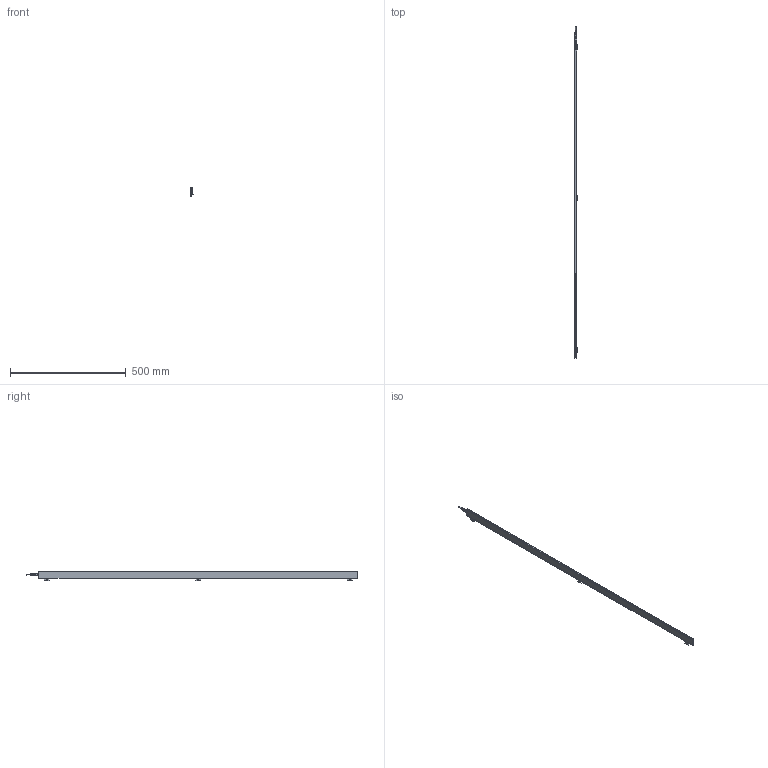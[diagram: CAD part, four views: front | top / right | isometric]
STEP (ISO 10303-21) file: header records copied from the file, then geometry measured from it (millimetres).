
FILE_DESCRIPTION (( 'STEP AP214' ), '1' );
FILE_NAME ('ILG-N-K2-1380mm.STEP', '2017-07-10T14:06:02', ( '' ), ( '' ), 'SwSTEP 2.0', 'SolidWorks 2016', '' );
FILE_SCHEMA (( 'AUTOMOTIVE_DESIGN' ));
Length unit declared in the file: millimetre
Products named in the file (1): ILG-N-K2-1380mm
Bounding box: 10.23 x 1433.5 x 42.41 mm (x, y, z)
Surface area: 234030 mm2 (no closed solid volume)
Topology: 0 solids, 16 shells, 781 faces, 2020 edges, 1269 vertices
Faces by surface type: plane 346, cylinder 297, cone 90, bspline 32, torus 16
Entity records: 34483 total; most frequent: CARTESIAN_POINT 6956, ORIENTED_EDGE 3993, DIRECTION 3858, EDGE_CURVE 2004, AXIS2_PLACEMENT_3D 1419, VERTEX_POINT 1269, VECTOR 1020, LINE 1020
